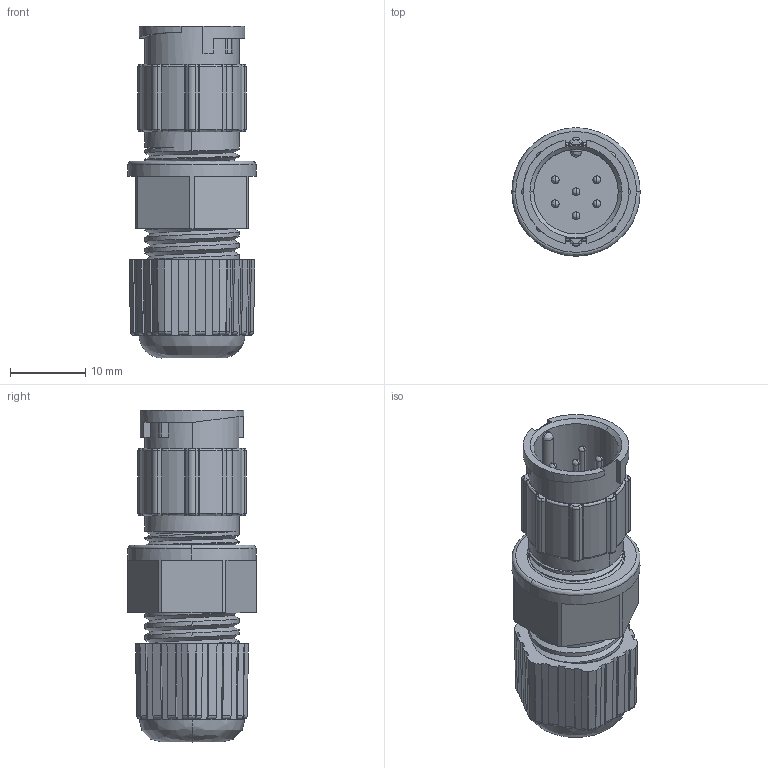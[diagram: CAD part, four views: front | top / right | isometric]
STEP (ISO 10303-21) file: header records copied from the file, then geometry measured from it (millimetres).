
FILE_DESCRIPTION (( 'STEP AP203' ), '1' );
FILE_NAME ('868-006-103KIT.STEP', '2025-12-17T18:16:14', ( '' ), ( '' ), 'SwSTEP 2.0', 'SolidWorks 2020', '' );
FILE_SCHEMA (( 'CONFIG_CONTROL_DESIGN' ));
Length unit declared in the file: millimetre
Products named in the file (1): 868-006-103KIT
Bounding box: 17 x 17 x 44 mm (x, y, z)
Volume: 4703.7 mm3; surface area: 5794.3 mm2
Topology: 1 solids, 1 shells, 644 faces, 1639 edges, 997 vertices
Faces by surface type: cylinder 242, plane 194, bspline 146, cone 62
Entity records: 32783 total; most frequent: CARTESIAN_POINT 18963, ORIENTED_EDGE 3228, DIRECTION 2352, EDGE_CURVE 1614, VERTEX_POINT 997, AXIS2_PLACEMENT_3D 876, EDGE_LOOP 673, ADVANCED_FACE 644
